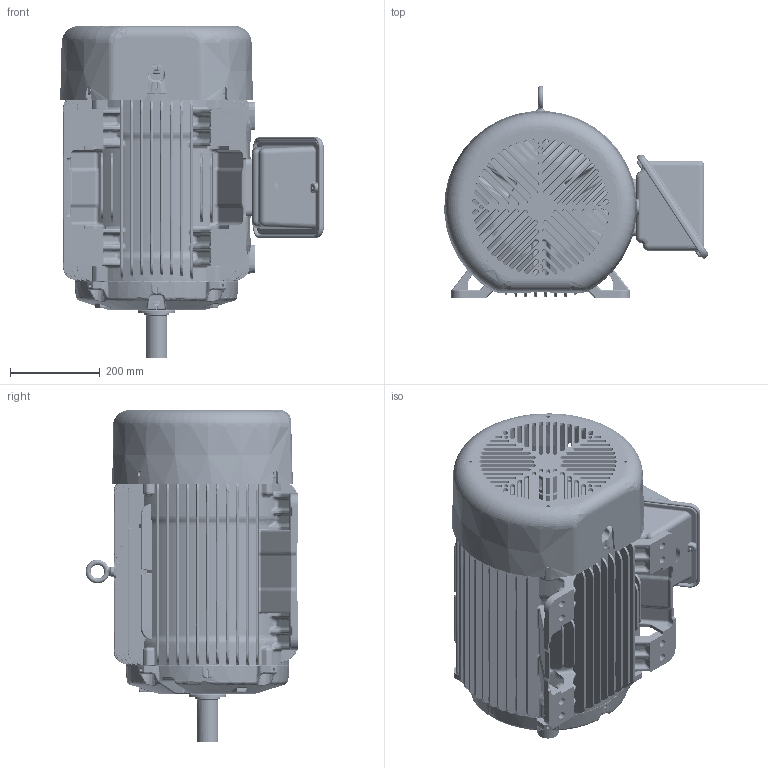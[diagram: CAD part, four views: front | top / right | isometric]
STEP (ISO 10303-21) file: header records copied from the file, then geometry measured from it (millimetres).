
FILE_DESCRIPTION((''),'2;1');
FILE_NAME('GP_ASSY_ASM','2014-06-19T',('NMC779F'),('Nidec Motor Corporation'),'PRO/ENGINEER BY PARAMETRIC TECHNOLOGY CORPORATION, 2013150','PRO/ENGINEER BY PARAMETRIC TECHNOLOGY CORPORATION, 2013150','');
FILE_SCHEMA(('CONFIG_CONTROL_DESIGN'));
Products named in the file (11): 0984296; 0648090-001; 0116263; 0416265; 0648089-001; 320_INPRO; 0981270; 0997226; 0997227; 0133166; GP_ASSY_ASM
Assembly tree (10 placements, depth 2):
  GP_ASSY_ASM
    0984296
    0648090-001
    0116263
    0416265
    0648089-001
    320_INPRO
    0981270
    0997226
    0997227
    0133166
Bounding box: 588.9 x 475.23 x 741.92 mm (x, y, z)
Volume: 16341253.4 mm3; surface area: 4124083.3 mm2
Topology: 12 solids, 12 shells, 6146 faces, 14996 edges, 8854 vertices
Faces by surface type: bspline 2349, plane 1297, cylinder 1157, torus 484, cone 409, extrusion 308, sphere 142
Entity records: 281172 total; most frequent: CARTESIAN_POINT 155824, ORIENTED_EDGE 29904, DIRECTION 20218, EDGE_CURVE 14952, VERTEX_POINT 8854, AXIS2_PLACEMENT_3D 7648, B_SPLINE_CURVE_WITH_KNOTS 6508, EDGE_LOOP 6412
